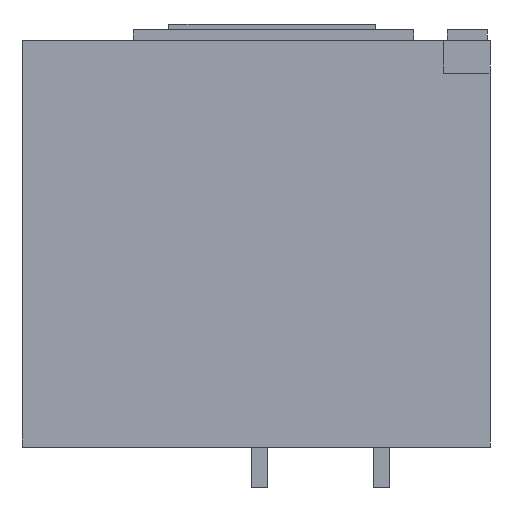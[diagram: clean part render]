
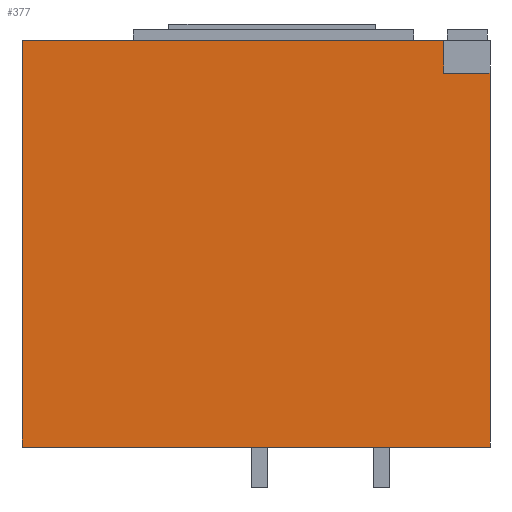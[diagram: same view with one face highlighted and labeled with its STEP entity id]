
A CAD part, left-side view. The second image highlights one B-rep face of the part: STEP entity #377.
In plain terms, the highlighted planar face has unit normal (-1, 0, 0).
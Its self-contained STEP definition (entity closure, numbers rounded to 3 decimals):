
#353 = ORIENTED_EDGE ( 'NONE', *, *, #25030, .T. ) ;
#356 = VECTOR ( 'NONE', #5807, 1000. ) ;
#377 = ADVANCED_FACE ( 'NONE', ( #10194 ), #7712, .T. ) ;
#2771 = CARTESIAN_POINT ( 'NONE',  ( -167.5, 42.5, -30. ) ) ;
#4036 = CARTESIAN_POINT ( 'NONE',  ( -167.5, 430., -373.5 ) ) ;
#5377 = LINE ( 'NONE', #29955, #10371 ) ;
#5807 = DIRECTION ( 'NONE',  ( 0., -1., 0. ) ) ;
#7240 = VERTEX_POINT ( 'NONE', #26960 ) ;
#7580 = CARTESIAN_POINT ( 'NONE',  ( -167.5, 0., -373.5 ) ) ;
#7691 = ORIENTED_EDGE ( 'NONE', *, *, #21774, .F. ) ;
#7712 = PLANE ( 'NONE',  #27786 ) ;
#7809 = DIRECTION ( 'NONE',  ( 0., -1., 0. ) ) ;
#7902 = CARTESIAN_POINT ( 'NONE',  ( -167.5, 0., -30. ) ) ;
#8688 = LINE ( 'NONE', #16257, #16329 ) ;
#10128 = DIRECTION ( 'NONE',  ( 0., 0., 1. ) ) ;
#10194 = FACE_OUTER_BOUND ( 'NONE', #21094, .T. ) ;
#10371 = VECTOR ( 'NONE', #10128, 1000. ) ;
#10714 = ORIENTED_EDGE ( 'NONE', *, *, #16280, .T. ) ;
#12261 = CARTESIAN_POINT ( 'NONE',  ( -167.5, 430.001, -30. ) ) ;
#13227 = VECTOR ( 'NONE', #17234, 1000. ) ;
#13735 = VERTEX_POINT ( 'NONE', #24796 ) ;
#13767 = LINE ( 'NONE', #33728, #20417 ) ;
#14367 = CARTESIAN_POINT ( 'NONE',  ( -167.5, 0., -373.5 ) ) ;
#14591 = EDGE_CURVE ( 'NONE', #20843, #16855, #15849, .T. ) ;
#14689 = DIRECTION ( 'NONE',  ( -1., 0., 0. ) ) ;
#15849 = LINE ( 'NONE', #12261, #22460 ) ;
#16257 = CARTESIAN_POINT ( 'NONE',  ( -167.5, 430., -373.5 ) ) ;
#16280 = EDGE_CURVE ( 'NONE', #19426, #32524, #35469, .T. ) ;
#16329 = VECTOR ( 'NONE', #35808, 1000. ) ;
#16855 = VERTEX_POINT ( 'NONE', #7902 ) ;
#17234 = DIRECTION ( 'NONE',  ( 0., 0., 1. ) ) ;
#17275 = EDGE_CURVE ( 'NONE', #20843, #13735, #5377, .T. ) ;
#19426 = VERTEX_POINT ( 'NONE', #4036 ) ;
#20417 = VECTOR ( 'NONE', #28345, 1000. ) ;
#20843 = VERTEX_POINT ( 'NONE', #2771 ) ;
#21094 = EDGE_LOOP ( 'NONE', ( #7691, #31405, #10714, #353, #27556, #35433 ) ) ;
#21774 = EDGE_CURVE ( 'NONE', #7240, #13735, #13767, .T. ) ;
#22460 = VECTOR ( 'NONE', #31919, 1000. ) ;
#24796 = CARTESIAN_POINT ( 'NONE',  ( -167.5, 42.5, 0. ) ) ;
#25030 = EDGE_CURVE ( 'NONE', #32524, #16855, #34726, .T. ) ;
#25654 = CARTESIAN_POINT ( 'NONE',  ( -167.5, 0., -373.5 ) ) ;
#26115 = EDGE_CURVE ( 'NONE', #19426, #7240, #8688, .T. ) ;
#26960 = CARTESIAN_POINT ( 'NONE',  ( -167.5, 430., 0. ) ) ;
#27556 = ORIENTED_EDGE ( 'NONE', *, *, #14591, .F. ) ;
#27786 = AXIS2_PLACEMENT_3D ( 'NONE', #7580, #14689, #7809 ) ;
#28345 = DIRECTION ( 'NONE',  ( 0., -1., 0. ) ) ;
#29955 = CARTESIAN_POINT ( 'NONE',  ( -167.5, 42.5, -373.5 ) ) ;
#31405 = ORIENTED_EDGE ( 'NONE', *, *, #26115, .F. ) ;
#31841 = CARTESIAN_POINT ( 'NONE',  ( -167.5, 0., -373.5 ) ) ;
#31919 = DIRECTION ( 'NONE',  ( 0., -1., 0. ) ) ;
#32524 = VERTEX_POINT ( 'NONE', #31841 ) ;
#33728 = CARTESIAN_POINT ( 'NONE',  ( -167.5, 0., 0. ) ) ;
#34726 = LINE ( 'NONE', #14367, #13227 ) ;
#35433 = ORIENTED_EDGE ( 'NONE', *, *, #17275, .T. ) ;
#35469 = LINE ( 'NONE', #25654, #356 ) ;
#35808 = DIRECTION ( 'NONE',  ( 0., 0., 1. ) ) ;
